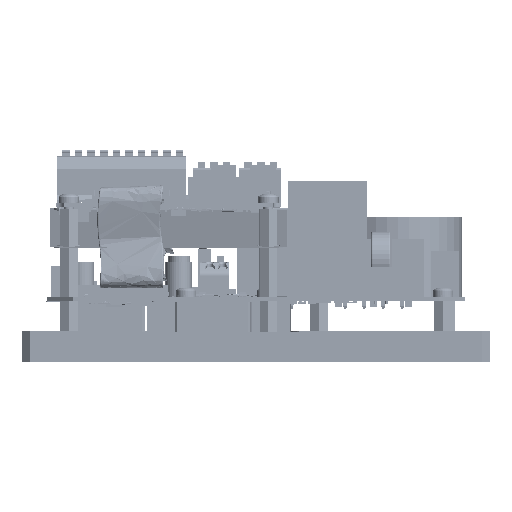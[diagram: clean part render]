
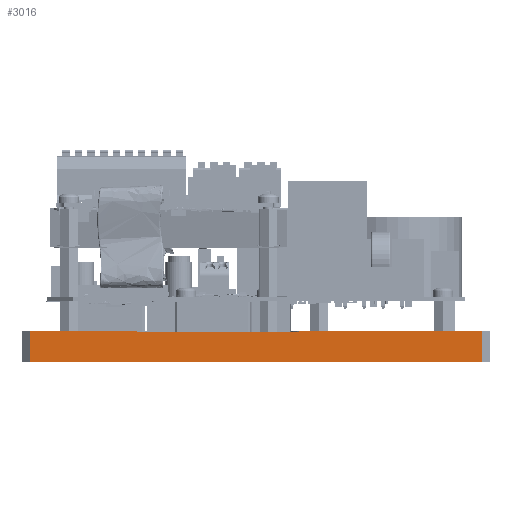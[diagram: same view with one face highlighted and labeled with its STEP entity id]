
A CAD part, left-side view. The second image highlights one B-rep face of the part: STEP entity #3016.
In plain terms, the highlighted planar face has unit normal (-1, 0, 0).
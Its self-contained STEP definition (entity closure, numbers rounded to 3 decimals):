
#2966=AXIS2_PLACEMENT_3D('Plane Axis2P3D',#2963,#2964,#2965) ;
#184=CARTESIAN_POINT('Line Origine',(-266.493,-53.263,9.)) ;
#188=CARTESIAN_POINT('Vertex',(-266.493,-17.013,9.)) ;
#190=CARTESIAN_POINT('Vertex',(-266.493,-89.513,9.)) ;
#2769=CARTESIAN_POINT('Vertex',(-266.493,46.987,8.8)) ;
#2772=CARTESIAN_POINT('Line Origine',(-266.493,14.987,8.8)) ;
#2776=CARTESIAN_POINT('Vertex',(-266.493,-17.013,8.8)) ;
#2963=CARTESIAN_POINT('Axis2P3D Location',(-266.493,-92.513,-3.)) ;
#2968=CARTESIAN_POINT('Line Origine',(-266.493,-17.013,8.9)) ;
#2973=CARTESIAN_POINT('Line Origine',(-266.493,46.987,8.9)) ;
#2977=CARTESIAN_POINT('Vertex',(-266.493,46.987,9.)) ;
#2980=CARTESIAN_POINT('Line Origine',(-266.493,68.237,9.)) ;
#2984=CARTESIAN_POINT('Vertex',(-266.493,89.487,9.)) ;
#2987=CARTESIAN_POINT('Line Origine',(-266.493,89.487,3.)) ;
#2991=CARTESIAN_POINT('Vertex',(-266.493,89.487,-3.)) ;
#2994=CARTESIAN_POINT('Line Origine',(-266.493,-0.013,-3.)) ;
#2998=CARTESIAN_POINT('Vertex',(-266.493,-89.513,-3.)) ;
#3001=CARTESIAN_POINT('Line Origine',(-266.493,-89.513,3.)) ;
#185=DIRECTION('Vector Direction',(0.,1.,0.)) ;
#2773=DIRECTION('Vector Direction',(0.,1.,0.)) ;
#2964=DIRECTION('Axis2P3D Direction',(1.,0.,0.)) ;
#2965=DIRECTION('Axis2P3D XDirection',(0.,1.,0.)) ;
#2969=DIRECTION('Vector Direction',(0.,0.,-1.)) ;
#2974=DIRECTION('Vector Direction',(0.,0.,-1.)) ;
#2981=DIRECTION('Vector Direction',(0.,1.,0.)) ;
#2988=DIRECTION('Vector Direction',(0.,0.,1.)) ;
#2995=DIRECTION('Vector Direction',(0.,1.,0.)) ;
#3002=DIRECTION('Vector Direction',(0.,0.,-1.)) ;
#186=VECTOR('Line Direction',#185,1.) ;
#2774=VECTOR('Line Direction',#2773,1.) ;
#2970=VECTOR('Line Direction',#2969,1.) ;
#2975=VECTOR('Line Direction',#2974,1.) ;
#2982=VECTOR('Line Direction',#2981,1.) ;
#2989=VECTOR('Line Direction',#2988,1.) ;
#2996=VECTOR('Line Direction',#2995,1.) ;
#3003=VECTOR('Line Direction',#3002,1.) ;
#3007=ORIENTED_EDGE('',*,*,#2972,.T.) ;
#3008=ORIENTED_EDGE('',*,*,#2778,.T.) ;
#3009=ORIENTED_EDGE('',*,*,#2979,.F.) ;
#3010=ORIENTED_EDGE('',*,*,#2986,.F.) ;
#3011=ORIENTED_EDGE('',*,*,#2993,.F.) ;
#3012=ORIENTED_EDGE('',*,*,#3000,.T.) ;
#3013=ORIENTED_EDGE('',*,*,#3005,.T.) ;
#3014=ORIENTED_EDGE('',*,*,#192,.F.) ;
#3016=ADVANCED_FACE('Heat_sink .Cold Plate BG B MET - .1\\PartBody',(#3015),#2967,.F.) ;
#192=EDGE_CURVE('',#189,#191,#187,.F.) ;
#2778=EDGE_CURVE('',#2777,#2770,#2775,.T.) ;
#2972=EDGE_CURVE('',#189,#2777,#2971,.T.) ;
#2979=EDGE_CURVE('',#2978,#2770,#2976,.T.) ;
#2986=EDGE_CURVE('',#2985,#2978,#2983,.F.) ;
#2993=EDGE_CURVE('',#2992,#2985,#2990,.T.) ;
#3000=EDGE_CURVE('',#2992,#2999,#2997,.F.) ;
#3005=EDGE_CURVE('',#2999,#191,#3004,.F.) ;
#3006=EDGE_LOOP('',(#3007,#3008,#3009,#3010,#3011,#3012,#3013,#3014)) ;
#3015=FACE_OUTER_BOUND('',#3006,.T.) ;
#187=LINE('Line',#184,#186) ;
#2775=LINE('Line',#2772,#2774) ;
#2971=LINE('Line',#2968,#2970) ;
#2976=LINE('Line',#2973,#2975) ;
#2983=LINE('Line',#2980,#2982) ;
#2990=LINE('Line',#2987,#2989) ;
#2997=LINE('Line',#2994,#2996) ;
#3004=LINE('Line',#3001,#3003) ;
#2967=PLANE('Plane',#2966) ;
#189=VERTEX_POINT('',#188) ;
#191=VERTEX_POINT('',#190) ;
#2770=VERTEX_POINT('',#2769) ;
#2777=VERTEX_POINT('',#2776) ;
#2978=VERTEX_POINT('',#2977) ;
#2985=VERTEX_POINT('',#2984) ;
#2992=VERTEX_POINT('',#2991) ;
#2999=VERTEX_POINT('',#2998) ;
